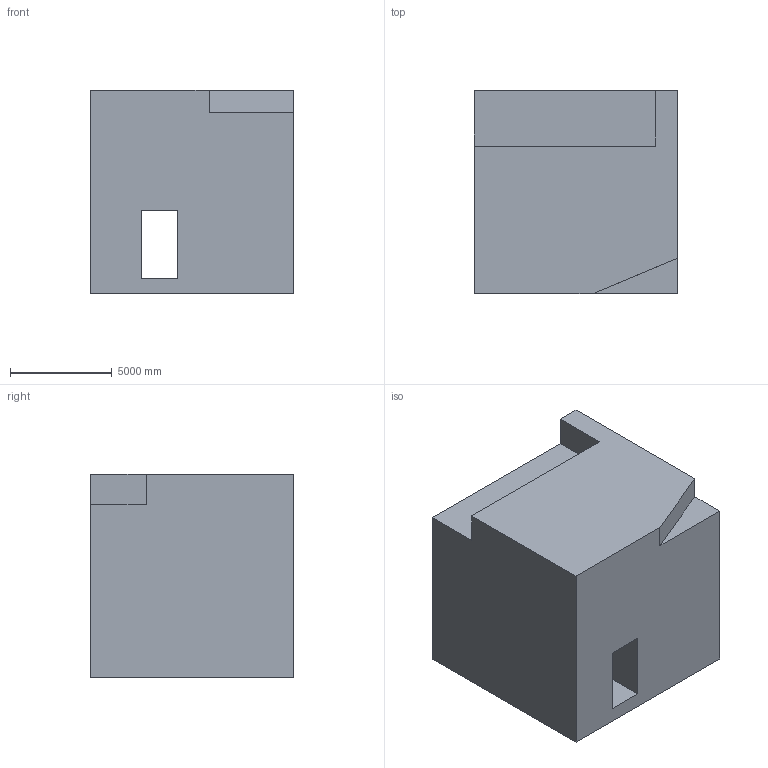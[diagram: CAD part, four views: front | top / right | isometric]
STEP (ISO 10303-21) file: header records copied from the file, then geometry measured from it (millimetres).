
FILE_DESCRIPTION (( 'STEP AP203' ), '1' );
FILE_NAME ('237.STEP', '2022-07-28T14:00:14', ( 'user' ), ( '' ), 'SwSTEP 2.0', 'SolidWorks 2021', '' );
FILE_SCHEMA (( 'CONFIG_CONTROL_DESIGN' ));
Length unit declared in the file: centimetre
Products named in the file (1): 237
Bounding box: 10000 x 10000 x 10000 mm (x, y, z)
Volume: 899605829049.9 mm3; surface area: 689376940.1 mm2
Topology: 1 solids, 1 shells, 15 faces, 39 edges, 26 vertices
Faces by surface type: plane 15
Entity records: 534 total; most frequent: CARTESIAN_POINT 81, ORIENTED_EDGE 78, DIRECTION 71, VECTOR 39, EDGE_CURVE 39, LINE 39, VERTEX_POINT 26, EDGE_LOOP 17
